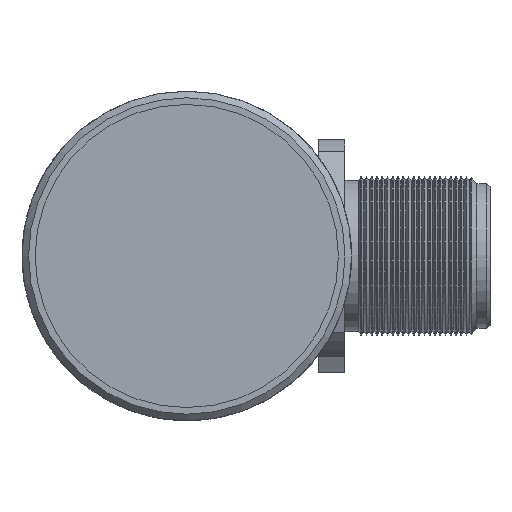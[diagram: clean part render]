
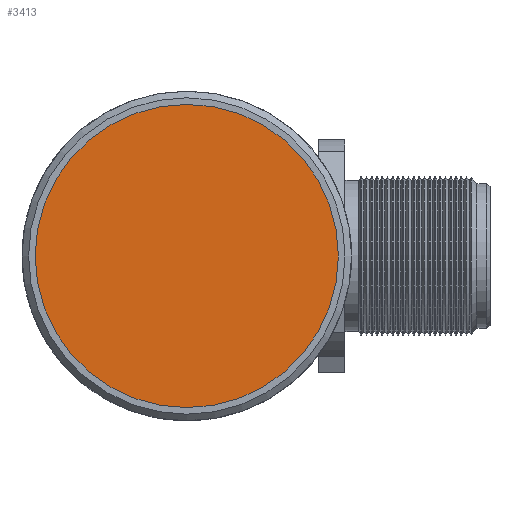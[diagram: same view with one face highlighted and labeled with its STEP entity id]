
A CAD part, left-side view. The second image highlights one B-rep face of the part: STEP entity #3413.
In plain terms, the highlighted planar face has unit normal (-1, 0, 0).
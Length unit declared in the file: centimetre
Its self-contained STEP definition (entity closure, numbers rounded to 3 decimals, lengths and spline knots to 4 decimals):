
#430=PLANE('',#3682);
#836=VERTEX_POINT('',#4058);
#1138=CIRCLE('',#3681,1.15);
#1310=EDGE_CURVE('',#836,#836,#1138,.T.);
#1774=ORIENTED_EDGE('',*,*,#1310,.T.);
#2680=EDGE_LOOP('',(#1774));
#3051=FACE_BOUND('',#2680,.T.);
#3413=ADVANCED_FACE('',(#3051),#430,.F.);
#3681=AXIS2_PLACEMENT_3D('',#4057,#5697,#5698);
#3682=AXIS2_PLACEMENT_3D('',#4059,#5699,$);
#4057=CARTESIAN_POINT('',(-3.4,0.,0.));
#4058=CARTESIAN_POINT('',(-3.4,0.,-1.15));
#4059=CARTESIAN_POINT('',(-3.4,0.,0.));
#5697=DIRECTION('',(-1.,0.,0.));
#5698=DIRECTION('',(0.,0.,-1.15));
#5699=DIRECTION('',(1.,0.,0.));
